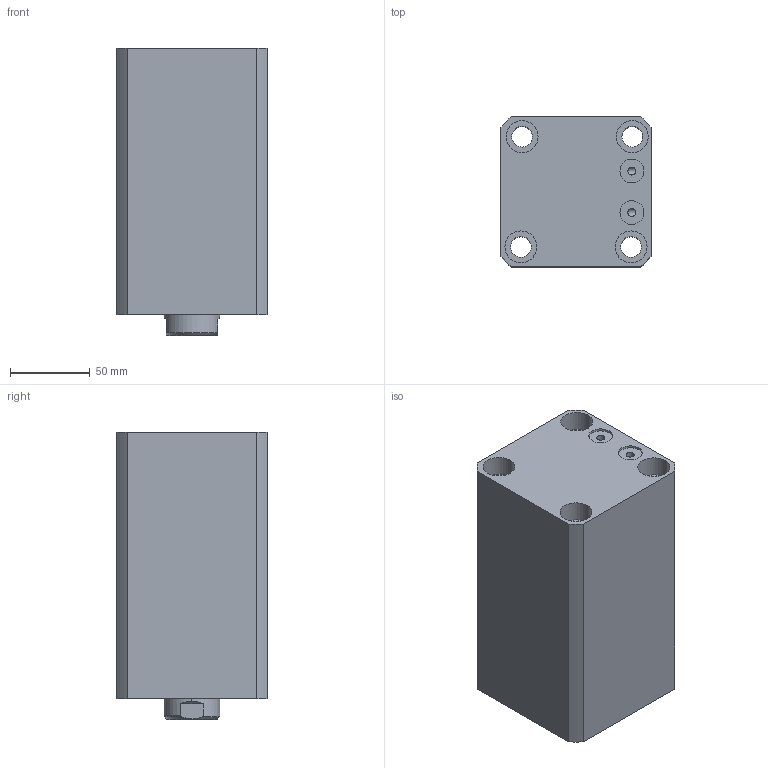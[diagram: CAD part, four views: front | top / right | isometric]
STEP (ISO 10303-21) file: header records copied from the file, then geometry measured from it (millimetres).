
FILE_DESCRIPTION (( 'STEP AP214' ), '1' );
FILE_NAME ('chtb-sdmb63x100n_asm.STEP', '2018-05-16T03:58:57', ( 'Windows' ), ( 'Microsoft' ), 'SwSTEP 2.0', 'SolidWorks 2015', '' );
FILE_SCHEMA (( 'AUTOMOTIVE_DESIGN' ));
Length unit declared in the file: millimetre
Products named in the file (4): CHTB-SDMB63X100NBT; CHTB63X100NHSG; CHTB-63QG; chtb-sdmb63x100n_asm
Assembly tree (3 placements, depth 2):
  chtb-sdmb63x100n_asm
    CHTB-63QG
    CHTB63X100NHSG
    CHTB-SDMB63X100NBT
Bounding box: 94 x 94 x 180 mm (x, y, z)
Volume: 1138338.6 mm3; surface area: 187470.9 mm2
Topology: 3 solids, 3 shells, 164 faces, 468 edges, 318 vertices
Faces by surface type: cylinder 107, plane 30, bspline 12, cone 8, torus 7
Entity records: 17708 total; most frequent: CARTESIAN_POINT 13594, ORIENTED_EDGE 924, DIRECTION 707, EDGE_CURVE 462, VERTEX_POINT 318, AXIS2_PLACEMENT_3D 284, EDGE_LOOP 196, FACE_OUTER_BOUND 164
